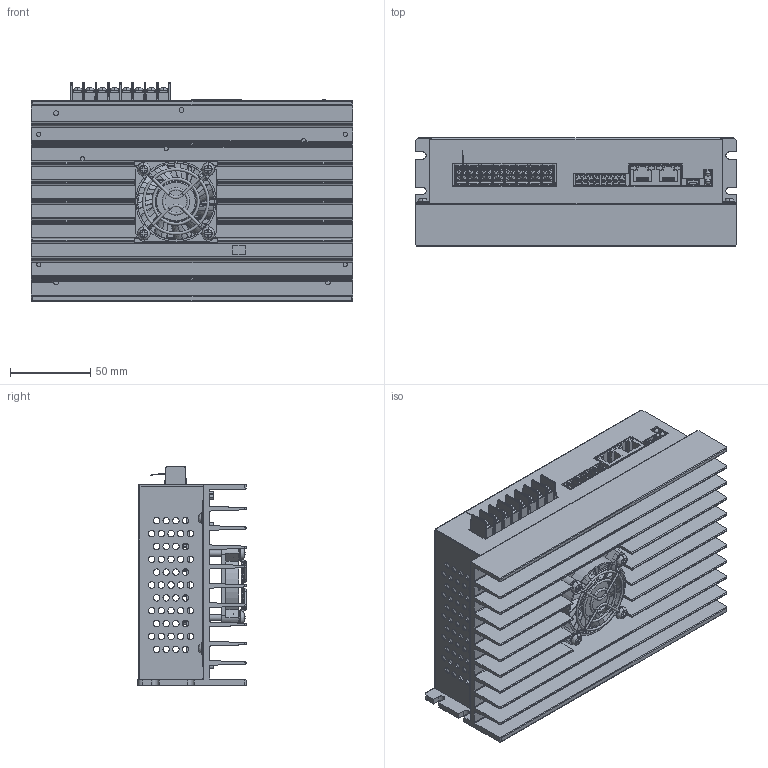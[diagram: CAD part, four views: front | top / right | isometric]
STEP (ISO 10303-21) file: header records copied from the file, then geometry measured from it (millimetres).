
FILE_DESCRIPTION((''),'2;1');
FILE_NAME('PRT0001','2023-12-08T11:25:14',('Admin'),(''),'CREO PARAMETRIC BY PTC INC, 2020074','CREO PARAMETRIC BY PTC INC, 2020074','');
FILE_SCHEMA(('CONFIG_CONTROL_DESIGN','SHAPE_APPEARANCE_LAYERS_GROUPS'));
Products named in the file (1): PRT0001
Bounding box: 200 x 67.5 x 136.22 mm (x, y, z)
Topology: 31 solids, 66 shells, 5022 faces, 13437 edges, 8522 vertices
Faces by surface type: plane 3203, cylinder 1061, bspline 604, torus 86, cone 32, sphere 20, revolution 16
Entity records: 220308 total; most frequent: CARTESIAN_POINT 61835, ORIENTED_EDGE 26706, DIRECTION 22721, EDGE_CURVE 13353, VECTOR 9073, LINE 9073, VERTEX_POINT 8510, AXIS2_PLACEMENT_3D 6816
